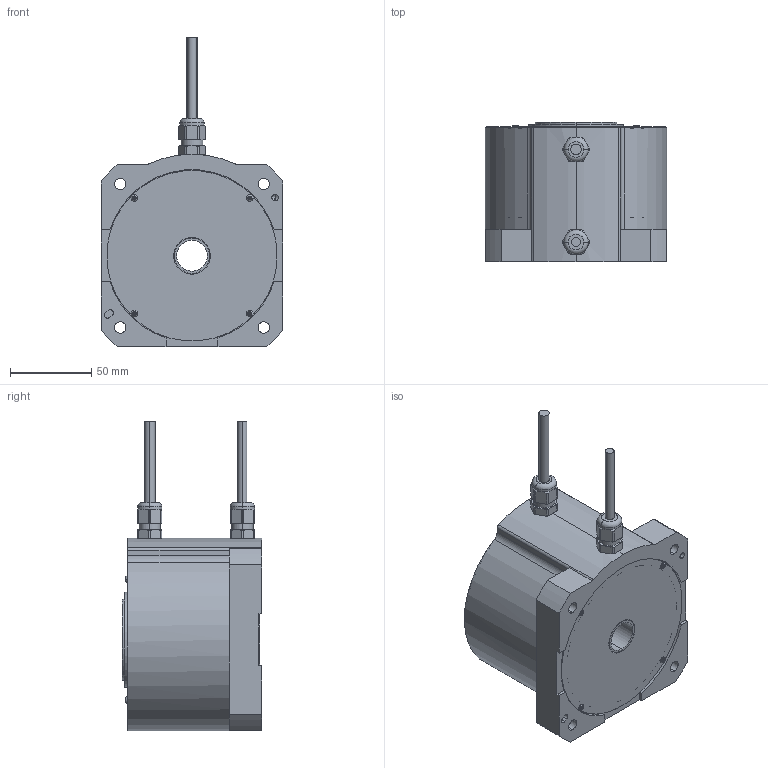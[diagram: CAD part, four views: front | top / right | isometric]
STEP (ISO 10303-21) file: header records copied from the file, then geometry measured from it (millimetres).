
FILE_DESCRIPTION (( 'STEP AP214' ), '1' );
FILE_NAME ('BZA01510.step', '2024-02-05T02:29:56', ( '' ), ( '' ), 'SwSTEP 2.0', 'SolidWorks 2023', '' );
FILE_SCHEMA (( 'AUTOMOTIVE_DESIGN' ));
Length unit declared in the file: millimetre
Products named in the file (1): BZA01510
Bounding box: 112 x 86 x 190.5 mm (x, y, z)
Volume: 173530.1 mm3; surface area: 131723 mm2
Topology: 14 solids, 14 shells, 587 faces, 1579 edges, 1025 vertices
Faces by surface type: cylinder 239, plane 172, cone 83, bspline 67, torus 26
Entity records: 21800 total; most frequent: CARTESIAN_POINT 7486, ORIENTED_EDGE 3070, DIRECTION 2755, EDGE_CURVE 1535, AXIS2_PLACEMENT_3D 1091, VERTEX_POINT 1025, EDGE_LOOP 680, FACE_OUTER_BOUND 587
